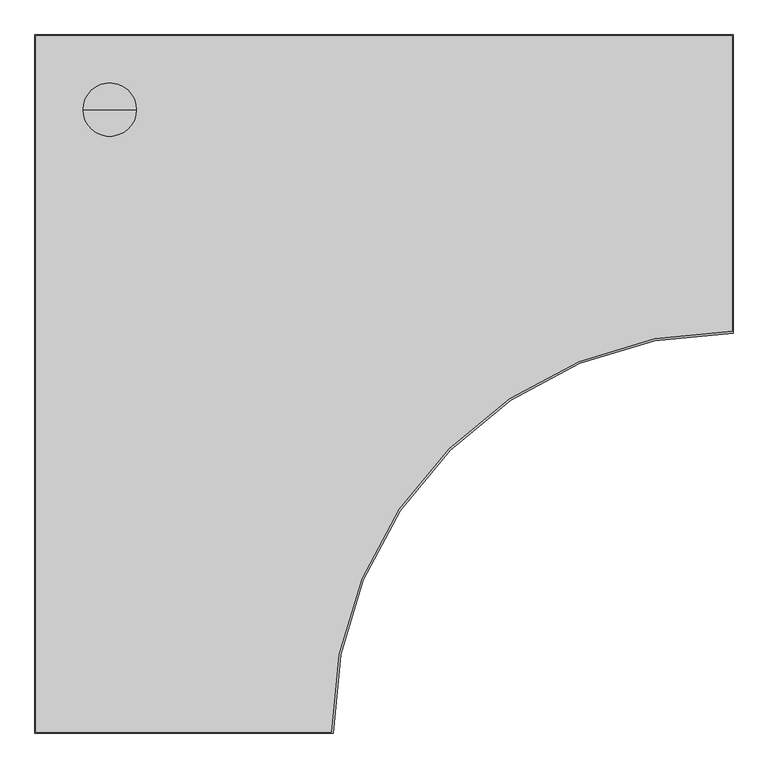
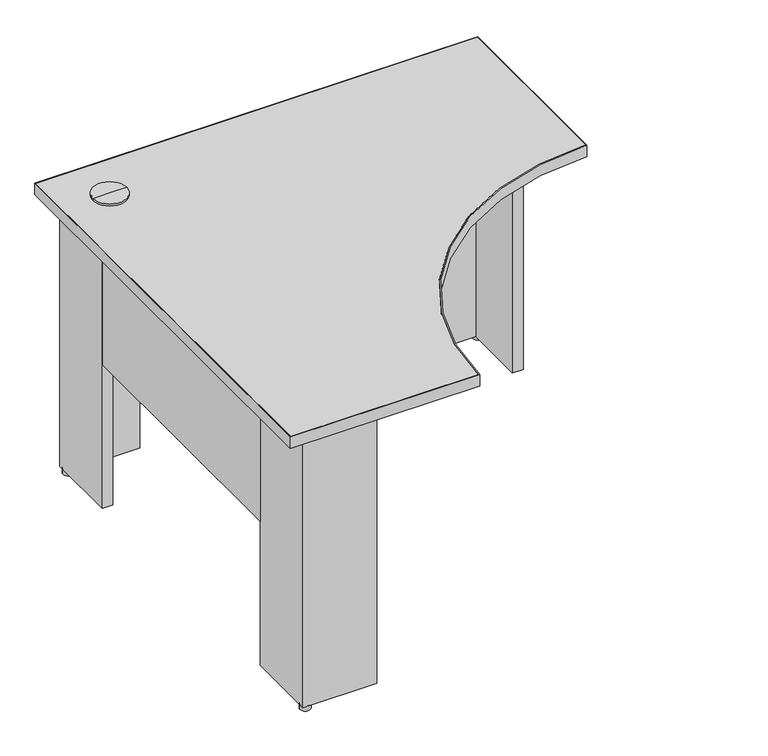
"""IFC4 building model written with IfcOpenShell, lengths in millimetres: furniture geometry, Steelcase - Kick Freestanding - Desk - Curve Corner - Partial Height Modesty Panel : 18D x 42W - LPL."""

from ifc_helpers import new_model, si_unit, point, frame, frame_2d, origin, origin_with_axes, place, context, project, spatial, polyline, circle_curve, trimmed, segment, composite_curve, outline, extrude, source, transform, mapped, element, save
from ifc_brep_helpers import plane_surface, cylinder_surface, advanced_brep


def furniture_2c33d95c(model_context):
    return source(origin(), model_context, "Body", "SolidModel", [
        extrude(outline(polyline([(874.0393822, -63.5), (874.0393822, -38.1), (1051.8393579, -38.1), (1051.8393579, -215.8999939), (1025.9313463, -215.8999939), (1025.9313463, -63.5), (874.0393822, -63.5)])), frame((0.0, 0.0, 12.446), z_axis=(0.0, 0.0, 1.0), x_axis=(1.0, 0.0, 0.0)), (0.0, 0.0, 1.0), 682.498),
        extrude(outline(polyline([(215.8999939, -63.5), (63.5, -63.5), (63.5, -215.8999939), (38.1, -215.8999939), (38.1, -38.1), (215.8999939, -38.1), (215.8999939, -63.5)])), frame((0.0, 0.0, 12.446), z_axis=(0.0, 0.0, 1.0), x_axis=(1.0, 0.0, 0.0)), (0.0, 0.0, 1.0), 682.498),
        advanced_brep(
        [(114.3, -114.3, 728.98), (154.94, -114.3, 728.98), (73.66, -114.3, 728.98), (76.1699693, -114.3, 694.944), (152.4300307, -114.3, 694.944), (114.3, -114.3, 694.944), (76.1699693, -114.3, 723.9), (152.4300307, -114.3, 723.9), (73.66, -114.3, 723.9), (154.94, -114.3, 723.9)],
        [
            (0, 1),
            (1, 2, circle_curve(frame((114.3, -114.3, 728.98), z_axis=(0.0, 0.0, 1.0), x_axis=(1.0, 0.0, 0.0)), 40.64)),
            (2, 0),
            (2, 1, circle_curve(frame((114.3, -114.3, 728.98), z_axis=(0.0, 0.0, 1.0), x_axis=(1.0, 0.0, 0.0)), 40.64)),
            (3, 4, circle_curve(frame((114.3, -114.3, 694.944), z_axis=(0.0, 0.0, -1.0), x_axis=(1.0, 0.0, 0.0)), 38.1300307)),
            (4, 5),
            (5, 3),
            (4, 3, circle_curve(frame((114.3, -114.3, 694.944), z_axis=(0.0, 0.0, -1.0), x_axis=(1.0, 0.0, 0.0)), 38.1300307)),
            (6, 7, circle_curve(frame((114.3, -114.3, 723.9), z_axis=(0.0, 0.0, -1.0), x_axis=(1.0, 0.0, 0.0)), 38.1300307)),
            (7, 4),
            (3, 6),
            (7, 6, circle_curve(frame((114.3, -114.3, 723.9), z_axis=(0.0, 0.0, -1.0), x_axis=(1.0, 0.0, 0.0)), 38.1300307)),
            (8, 9, circle_curve(frame((114.3, -114.3, 723.9), z_axis=(0.0, 0.0, -1.0), x_axis=(1.0, 0.0, 0.0)), 40.64)),
            (9, 7),
            (6, 8),
            (9, 8, circle_curve(frame((114.3, -114.3, 723.9), z_axis=(0.0, 0.0, -1.0), x_axis=(1.0, 0.0, 0.0)), 40.64)),
            (1, 9),
            (8, 2),
        ],
        [
            plane_surface(frame((114.3, -114.3, 728.98), z_axis=(0.0, 0.0, 1.0), x_axis=(1.0, 0.0, 0.0))),
            plane_surface(frame((114.3, -114.3, 694.944), z_axis=(0.0, 0.0, -1.0), x_axis=(1.0, 0.0, 0.0))),
            cylinder_surface(frame((114.3, -114.3, 728.98), z_axis=(0.0, 0.0, 1.0), x_axis=(1.0, 0.0, 0.0)), 38.1300307),
            plane_surface(frame((114.3, -114.3, 723.9), z_axis=(0.0, 0.0, -1.0), x_axis=(1.0, 0.0, 0.0))),
            cylinder_surface(frame((114.3, -114.3, 728.98), z_axis=(0.0, 0.0, 1.0), x_axis=(1.0, 0.0, 0.0)), 40.64),
        ],
        [
            (0, [[1, 2, 3]]),
            (0, [[-3, 4, -1]]),
            (1, [[5, 6, 7]]),
            (1, [[8, -7, -6]]),
            (2, [[9, 10, -5, 11]]),
            (2, [[12, -11, -8, -10]]),
            (3, [[13, 14, -9, 15]]),
            (3, [[16, -15, -12, -14]]),
            (4, [[-2, 17, -13, 18]]),
            (4, [[-4, -18, -16, -17]]),
        ],
    ),
        extrude(outline(composite_curve([segment(trimmed(circle_curve(frame_2d((50.8, -50.8)), 12.7), [point((38.1, -50.8))], [point((63.5, -50.8))], False, "CARTESIAN"), True, "CONTINUOUS"), segment(trimmed(circle_curve(frame_2d((50.8, -50.8)), 12.7), [point((63.5, -50.8))], [point((38.1, -50.8))], False, "CARTESIAN"), True, "CONTINUOUS")], self_intersect=False)), origin_with_axes(), (0.0, 0.0, 1.0), 12.446),
        extrude(outline(composite_curve([segment(trimmed(circle_curve(frame_2d((50.8, -1040.1300073)), 12.7484998), [point((38.0515002, -1040.1300073))], [point((63.5484998, -1040.1300073))], False, "CARTESIAN"), True, "CONTINUOUS"), segment(trimmed(circle_curve(frame_2d((50.8, -1040.1300073)), 12.7484998), [point((63.5484998, -1040.1300073))], [point((38.0515002, -1040.1300073))], False, "CARTESIAN"), True, "CONTINUOUS")], self_intersect=False)), origin_with_axes(), (0.0, 0.0, 1.0), 12.446),
        extrude(outline(composite_curve([segment(trimmed(circle_curve(frame_2d((1038.8853521, -50.8)), 12.7), [point((1026.1853521, -50.8))], [point((1051.5853521, -50.8))], False, "CARTESIAN"), True, "CONTINUOUS"), segment(trimmed(circle_curve(frame_2d((1038.8853521, -50.8)), 12.7), [point((1051.5853521, -50.8))], [point((1026.1853521, -50.8))], False, "CARTESIAN"), True, "CONTINUOUS")], self_intersect=False)), origin_with_axes(), (0.0, 0.0, 1.0), 12.446),
        extrude(outline(polyline([(63.5, -215.8999939), (63.5, -875.0300194), (38.1, -875.0300194), (38.1, -215.8999939), (63.5, -215.8999939)])), frame((0.0, 0.0, 379.476), z_axis=(0.0, 0.0, 1.0), x_axis=(1.0, 0.0, 0.0)), (0.0, 0.0, 1.0), 315.468),
        extrude(outline(polyline([(874.0393822, -38.1), (874.0393822, -63.5), (215.8999939, -63.5), (215.8999939, -38.1), (874.0393822, -38.1)])), frame((0.0, 0.0, 379.476), z_axis=(0.0, 0.0, 1.0), x_axis=(1.0, 0.0, 0.0)), (0.0, 0.0, 1.0), 315.468),
        extrude(outline(polyline([(215.8999939, -1027.4300194), (215.8999939, -1052.8299952), (38.1, -1052.8299952), (38.1, -875.0300194), (63.5, -875.0300194), (63.5, -1027.4300194), (215.8999939, -1027.4300194)])), frame((0.0, 0.0, 12.446), z_axis=(0.0, 0.0, 1.0), x_axis=(1.0, 0.0, 0.0)), (0.0, 0.0, 1.0), 682.498),
        extrude(outline(composite_curve([segment(polyline([(0.9906, -1065.8093628), (0.9906, -0.9906), (1065.8093628, -0.9906), (1065.8093628, -452.9354109)]), True, "CONTINUOUS"), segment(trimmed(circle_curve(frame_2d((1064.5393458, -1064.5393458)), 611.6052536), [point((1065.8093628, -452.9354109))], [point((452.9354109, -1065.8093628))], True, "CARTESIAN"), True, "CONTINUOUS"), segment(polyline([(452.9354109, -1065.8093628), (0.9906, -1065.8093628)]), True, "CONTINUOUS")], self_intersect=False)), frame((0.0, 0.0, 694.944), z_axis=(0.0, 0.0, 1.0), x_axis=(1.0, 0.0, 0.0)), (0.0, 0.0, 1.0), 28.956),
        extrude(outline(composite_curve([segment(polyline([(1066.8, 0.0), (1066.8, -455.932629)]), True, "CONTINUOUS"), segment(trimmed(circle_curve(frame_2d((1065.529983, -1065.529983)), 609.598677), [point((1066.8, -455.932629))], [point((455.932629, -1066.8))], True, "CARTESIAN"), True, "CONTINUOUS"), segment(polyline([(455.932629, -1066.8), (0.0, -1066.8), (0.0, 0.0), (1066.8, 0.0)]), True, "CONTINUOUS")], self_intersect=False), holes=[composite_curve([segment(polyline([(1065.8093628, -0.9906), (0.9906, -0.9906), (0.9906, -1065.8093628), (452.9354109, -1065.8093628)]), True, "CONTINUOUS"), segment(trimmed(circle_curve(frame_2d((1064.5393458, -1064.5393458)), 611.6052536), [point((452.9354109, -1065.8093628))], [point((1065.8093628, -452.9354109))], False, "CARTESIAN"), True, "CONTINUOUS"), segment(polyline([(1065.8093628, -452.9354109), (1065.8093628, -0.9906)]), True, "CONTINUOUS")], self_intersect=False)]), frame((0.0, 0.0, 694.944), z_axis=(0.0, 0.0, 1.0), x_axis=(1.0, 0.0, 0.0)), (0.0, 0.0, 1.0), 28.956),
    ])


if __name__ == "__main__":
    model = new_model("IFC4")
    model_context = context("Model", 3, world=origin())
    ifc_project = project(units=[si_unit("LENGTHUNIT", "METRE", prefix="MILLI")], contexts=[model_context])
    site = spatial("IfcSite", under=ifc_project)
    building = spatial("IfcBuilding", under=site)
    placement = place(None, origin())
    furniture_shape = furniture_2c33d95c(model_context)
    element("IfcFurniture", 1, ObjectType="Steelcase - Kick Freestanding - Desk - Curve Corner - Partial Height Modesty Panel : 18D x 42W - LPL", at=placement, inside=building, context=model_context, shape_type="MappedRepresentation", body=[
        mapped(furniture_shape, transform((0.0, 0.0, 0.0), x_axis=(1.0, 0.0, 0.0), y_axis=(0.0, 1.0, 0.0), z_axis=(0.0, 0.0, 1.0))),
    ])
    save(model, "model.ifc")
